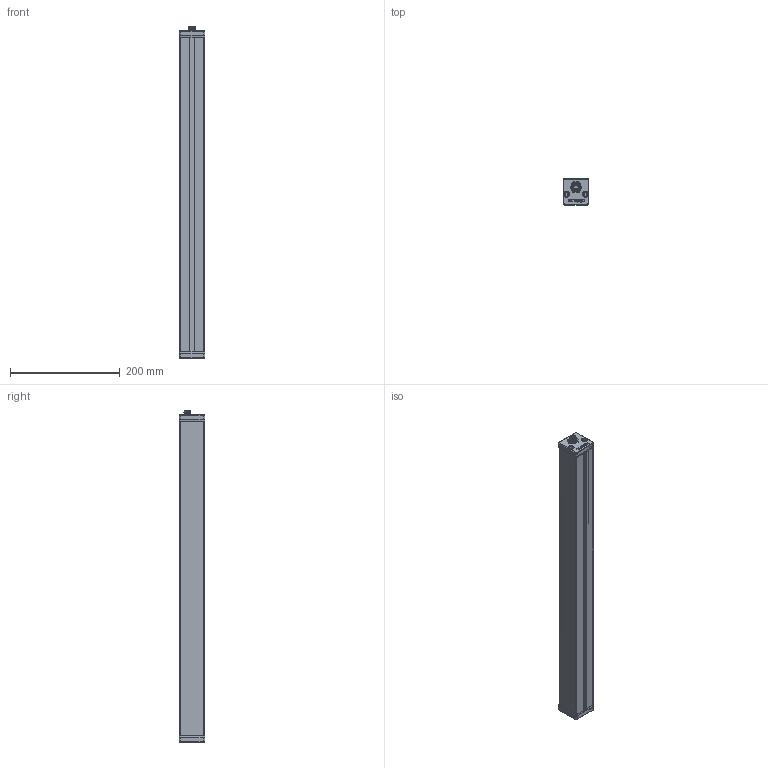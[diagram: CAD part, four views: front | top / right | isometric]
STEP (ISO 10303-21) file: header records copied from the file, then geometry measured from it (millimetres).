
FILE_DESCRIPTION (( 'STEP AP214' ), '1' );
FILE_NAME ('BARMIC8.STEP', '2012-02-17T15:00:54', ( ' ' ), ( '' ), 'SwSTEP 2.0', 'SolidWorks 2009', '' );
FILE_SCHEMA (( 'AUTOMOTIVE_DESIGN' ));
Length unit declared in the file: millimetre
Products named in the file (1): BARMIC8
Bounding box: 47 x 47 x 605.1 mm (x, y, z)
Volume: 311619.8 mm3; surface area: 303086.3 mm2
Topology: 1 solids, 3 shells, 606 faces, 1606 edges, 1035 vertices
Faces by surface type: plane 316, cylinder 158, bspline 66, torus 38, cone 20, sphere 8
Entity records: 34388 total; most frequent: CARTESIAN_POINT 12906, ORIENTED_EDGE 3180, DIRECTION 2914, EDGE_CURVE 1590, VERTEX_POINT 1027, VECTOR 984, LINE 984, AXIS2_PLACEMENT_3D 965
